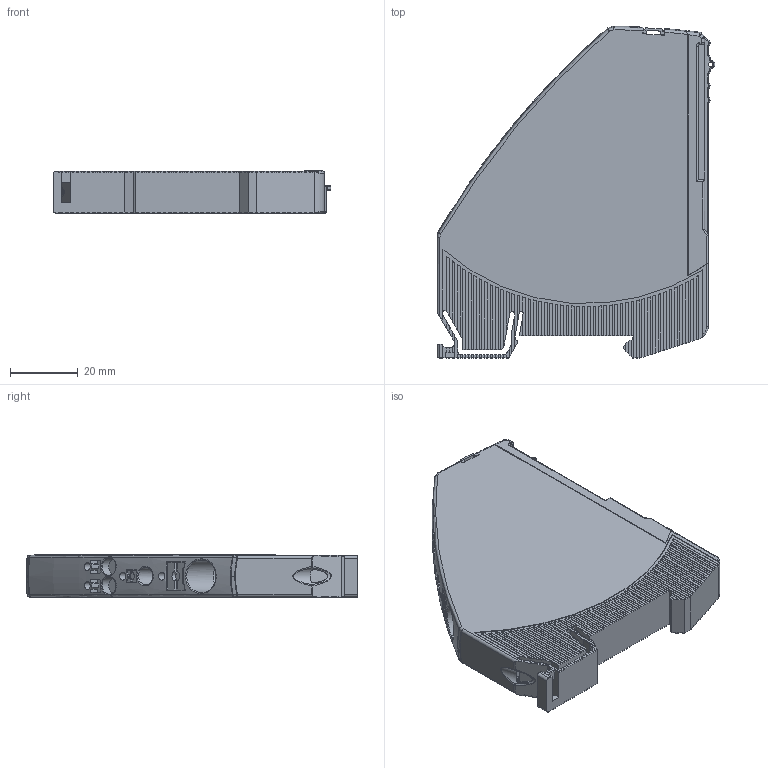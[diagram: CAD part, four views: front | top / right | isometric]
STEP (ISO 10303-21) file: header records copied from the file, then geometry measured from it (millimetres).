
FILE_DESCRIPTION((''),'2;1');
FILE_NAME('T-EM12-T00-000','2017-06-08T',('hroth'),(''),'PRO/ENGINEER BY PARAMETRIC TECHNOLOGY CORPORATION, 2014200','PRO/ENGINEER BY PARAMETRIC TECHNOLOGY CORPORATION, 2014200','');
FILE_SCHEMA(('AUTOMOTIVE_DESIGN { 1 0 10303 214 1 1 1 1 }'));
Length unit declared in the file: millimetre
Products named in the file (1): T-EM12-T00-000
Bounding box: 81.9 x 97.95 x 12.4 mm (x, y, z)
Volume: 71008.7 mm3; surface area: 19776.9 mm2
Topology: 1 solids, 1 shells, 1254 faces, 3521 edges, 2306 vertices
Faces by surface type: plane 866, cylinder 238, bspline 61, extrusion 41, torus 37, sphere 9, cone 2
Entity records: 47716 total; most frequent: CARTESIAN_POINT 14375, ORIENTED_EDGE 7042, DIRECTION 6124, EDGE_CURVE 3521, VECTOR 2726, LINE 2685, VERTEX_POINT 2306, AXIS2_PLACEMENT_3D 1699
